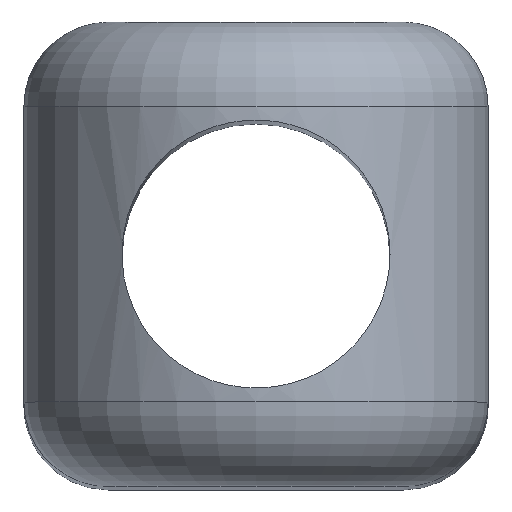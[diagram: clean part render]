
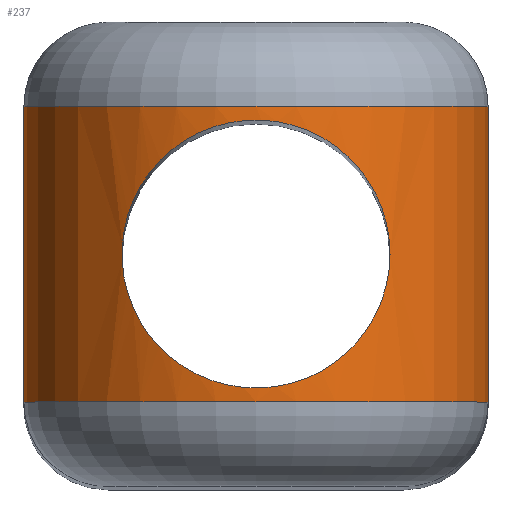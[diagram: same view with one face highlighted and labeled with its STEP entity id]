
A CAD part, top view. The second image highlights one B-rep face of the part: STEP entity #237.
In plain terms, the highlighted cylindrical face has radius 11 mm (diameter 22 mm), a partial arc.
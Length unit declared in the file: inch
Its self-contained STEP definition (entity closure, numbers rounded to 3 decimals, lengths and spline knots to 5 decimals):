
#16=FACE_BOUND('',#59,.T.);
#42=FACE_OUTER_BOUND('',#58,.T.);
#58=EDGE_LOOP('',(#210,#211,#212,#213));
#59=EDGE_LOOP('',(#214));
#60=B_SPLINE_CURVE_WITH_KNOTS('',3,(#361,#362,#363,#364,#365,#366,#367,
#368,#369,#370,#371,#372,#373,#374,#375,#376,#377,#378,#379,#380,#381,#382,
#383,#384,#385,#386,#387,#388,#389,#390,#391,#392,#393,#394),
 .UNSPECIFIED.,.T.,.F.,(4,2,2,2,2,2,2,2,2,2,2,2,2,2,2,2,4),(0.,0.24674,
0.49347,0.73889,0.9843,1.22972,
1.47514,1.72187,1.96861,2.21534,2.46208,
2.70749,2.95291,3.19833,3.44374,3.69048,
3.93721),.UNSPECIFIED.);
#71=LINE('',#427,#88);
#77=LINE('',#450,#94);
#88=VECTOR('',#320,0.55118);
#94=VECTOR('',#350,0.55118);
#98=CIRCLE('',#259,0.43307);
#102=CIRCLE('',#272,0.43307);
#105=VERTEX_POINT('',#359);
#107=VERTEX_POINT('',#397);
#111=VERTEX_POINT('',#406);
#116=VERTEX_POINT('',#426);
#118=VERTEX_POINT('',#432);
#124=EDGE_CURVE('',#105,#105,#60,.T.);
#130=EDGE_CURVE('',#111,#107,#98,.T.);
#140=EDGE_CURVE('',#107,#116,#71,.T.);
#147=EDGE_CURVE('',#116,#118,#102,.T.);
#152=EDGE_CURVE('',#111,#118,#77,.T.);
#210=ORIENTED_EDGE('',*,*,#130,.F.);
#211=ORIENTED_EDGE('',*,*,#152,.T.);
#212=ORIENTED_EDGE('',*,*,#147,.F.);
#213=ORIENTED_EDGE('',*,*,#140,.F.);
#214=ORIENTED_EDGE('',*,*,#124,.T.);
#222=CYLINDRICAL_SURFACE('',#279,0.43307);
#237=ADVANCED_FACE('',(#42,#16),#222,.T.);
#259=AXIS2_PLACEMENT_3D('',#408,#299,#300);
#272=AXIS2_PLACEMENT_3D('',#441,#336,#337);
#279=AXIS2_PLACEMENT_3D('',#452,#353,#354);
#299=DIRECTION('center_axis',(0.,-1.,0.));
#300=DIRECTION('ref_axis',(0.,0.,1.));
#320=DIRECTION('',(0.,1.,0.));
#336=DIRECTION('center_axis',(0.,1.,0.));
#337=DIRECTION('ref_axis',(0.,0.,1.));
#350=DIRECTION('',(0.,1.,0.));
#353=DIRECTION('center_axis',(0.,1.,0.));
#354=DIRECTION('ref_axis',(-1.,0.,0.));
#359=CARTESIAN_POINT('',(0.25,0.,4.25126));
#361=CARTESIAN_POINT('Ctrl Pts',(0.25,0.,
4.25126));
#362=CARTESIAN_POINT('Ctrl Pts',(0.25,-0.03238,
4.25126));
#363=CARTESIAN_POINT('Ctrl Pts',(0.24337,-0.06614,
4.25618));
#364=CARTESIAN_POINT('Ctrl Pts',(0.21767,-0.12738,4.27234));
#365=CARTESIAN_POINT('Ctrl Pts',(0.19861,-0.15495,4.28322));
#366=CARTESIAN_POINT('Ctrl Pts',(0.15506,-0.19849,4.3027));
#367=CARTESIAN_POINT('Ctrl Pts',(0.12746,-0.21763,4.31272));
#368=CARTESIAN_POINT('Ctrl Pts',(0.06605,-0.2434,
4.3268));
#369=CARTESIAN_POINT('Ctrl Pts',(0.03221,-0.25,
4.33071));
#370=CARTESIAN_POINT('Ctrl Pts',(-0.03221,-0.25,
4.33071));
#371=CARTESIAN_POINT('Ctrl Pts',(-0.06605,-0.2434,
4.3268));
#372=CARTESIAN_POINT('Ctrl Pts',(-0.12746,-0.21763,
4.31272));
#373=CARTESIAN_POINT('Ctrl Pts',(-0.15506,-0.19849,
4.3027));
#374=CARTESIAN_POINT('Ctrl Pts',(-0.19861,-0.15495,
4.28322));
#375=CARTESIAN_POINT('Ctrl Pts',(-0.21767,-0.12738,
4.27234));
#376=CARTESIAN_POINT('Ctrl Pts',(-0.24337,-0.06614,
4.25618));
#377=CARTESIAN_POINT('Ctrl Pts',(-0.25,-0.03238,
4.25126));
#378=CARTESIAN_POINT('Ctrl Pts',(-0.25,0.03238,
4.25126));
#379=CARTESIAN_POINT('Ctrl Pts',(-0.24337,0.06614,
4.25618));
#380=CARTESIAN_POINT('Ctrl Pts',(-0.21767,0.12738,4.27234));
#381=CARTESIAN_POINT('Ctrl Pts',(-0.19861,0.15495,4.28322));
#382=CARTESIAN_POINT('Ctrl Pts',(-0.15506,0.19849,4.3027));
#383=CARTESIAN_POINT('Ctrl Pts',(-0.12746,0.21763,4.31272));
#384=CARTESIAN_POINT('Ctrl Pts',(-0.06605,0.2434,
4.3268));
#385=CARTESIAN_POINT('Ctrl Pts',(-0.03221,0.25,
4.33071));
#386=CARTESIAN_POINT('Ctrl Pts',(0.03221,0.25,4.33071));
#387=CARTESIAN_POINT('Ctrl Pts',(0.06605,0.2434,4.3268));
#388=CARTESIAN_POINT('Ctrl Pts',(0.12746,0.21763,4.31272));
#389=CARTESIAN_POINT('Ctrl Pts',(0.15506,0.19849,4.3027));
#390=CARTESIAN_POINT('Ctrl Pts',(0.19861,0.15495,4.28322));
#391=CARTESIAN_POINT('Ctrl Pts',(0.21767,0.12738,4.27234));
#392=CARTESIAN_POINT('Ctrl Pts',(0.24337,0.06614,4.25618));
#393=CARTESIAN_POINT('Ctrl Pts',(0.25,0.03238,4.25126));
#394=CARTESIAN_POINT('Ctrl Pts',(0.25,0.,
4.25126));
#397=CARTESIAN_POINT('',(-0.43307,-0.27559,3.89764));
#406=CARTESIAN_POINT('',(0.43307,-0.27559,3.89764));
#408=CARTESIAN_POINT('Origin',(0.,-0.27559,
3.89764));
#426=CARTESIAN_POINT('',(-0.43307,0.27559,3.89764));
#427=CARTESIAN_POINT('',(-0.43307,-0.27559,3.89764));
#432=CARTESIAN_POINT('',(0.43307,0.27559,3.89764));
#441=CARTESIAN_POINT('Origin',(0.,0.27559,
3.89764));
#450=CARTESIAN_POINT('',(0.43307,-0.27559,3.89764));
#452=CARTESIAN_POINT('Origin',(0.,0.,3.89764));
